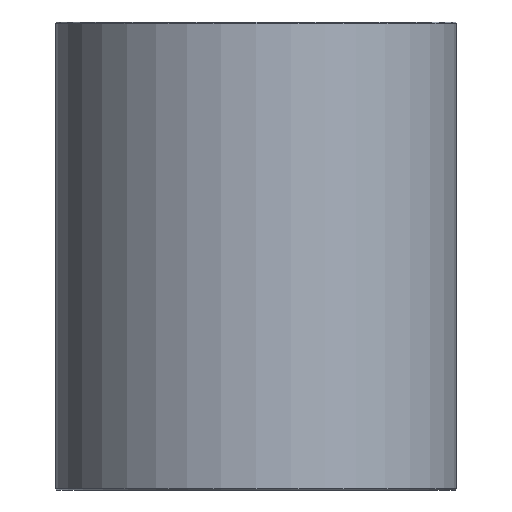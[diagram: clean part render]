
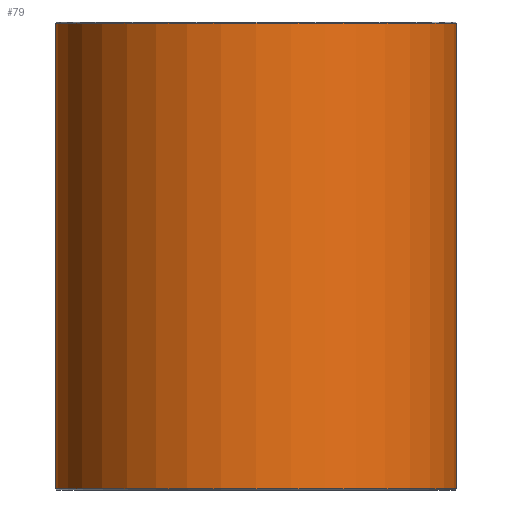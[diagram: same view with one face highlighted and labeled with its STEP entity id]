
A CAD part, front view. The second image highlights one B-rep face of the part: STEP entity #79.
In plain terms, the highlighted cylindrical face has radius 30 mm (diameter 60 mm), a full revolution.
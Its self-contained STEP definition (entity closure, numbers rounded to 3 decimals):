
#79=ADVANCED_FACE('',(#96,#97),#98,.T.);
#96=FACE_OUTER_BOUND('',#120,.T.);
#97=FACE_OUTER_BOUND('',#121,.T.);
#98=CYLINDRICAL_SURFACE('',#122,30.0);
#120=EDGE_LOOP('',(#152));
#121=EDGE_LOOP('',(#153));
#122=AXIS2_PLACEMENT_3D('',#154,#155,#156);
#152=ORIENTED_EDGE('',*,*,#178,.T.);
#153=ORIENTED_EDGE('',*,*,#177,.T.);
#154=CARTESIAN_POINT('',(0.0,0.0,70.0));
#155=DIRECTION('',(0.0,0.0,-1.0));
#156=DIRECTION('',(-1.0,0.0,0.0));
#177=EDGE_CURVE('',#190,#190,#191,.T.);
#178=EDGE_CURVE('',#192,#192,#193,.F.);
#190=VERTEX_POINT('',#206);
#191=CIRCLE('',#207,30.0);
#192=VERTEX_POINT('',#208);
#193=CIRCLE('',#209,30.0);
#206=CARTESIAN_POINT('',(30.0,0.0,0.2));
#207=AXIS2_PLACEMENT_3D('',#227,#228,#229);
#208=CARTESIAN_POINT('',(30.0,0.,69.8));
#209=AXIS2_PLACEMENT_3D('',#230,#231,#232);
#227=CARTESIAN_POINT('',(0.0,0.0,0.2));
#228=DIRECTION('',(0.0,0.0,1.0));
#229=DIRECTION('',(1.0,0.0,0.0));
#230=CARTESIAN_POINT('',(0.0,0.0,69.8));
#231=DIRECTION('',(0.0,0.0,1.0));
#232=DIRECTION('',(1.0,0.0,0.0));
